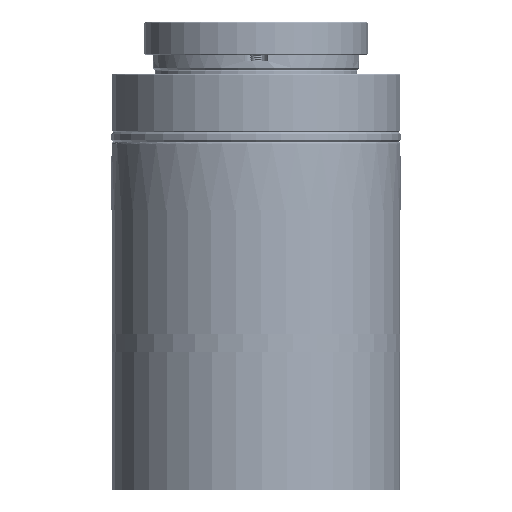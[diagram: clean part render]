
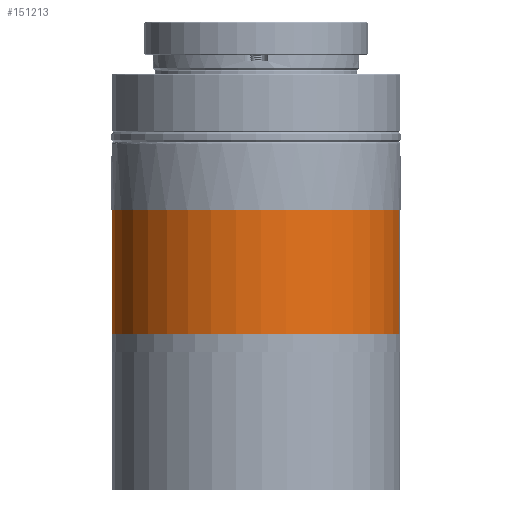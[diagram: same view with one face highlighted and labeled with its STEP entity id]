
A CAD part, front view. The second image highlights one B-rep face of the part: STEP entity #151213.
In plain terms, the highlighted cylindrical face has radius 35 mm (diameter 70 mm), a partial arc.
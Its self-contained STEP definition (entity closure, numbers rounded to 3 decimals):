
#3850 = AXIS2_PLACEMENT_3D ( 'NONE', #306147, #401969, #301951 ) ;
#25068 = VERTEX_POINT ( 'NONE', #172447 ) ;
#56591 = CIRCLE ( 'NONE', #294385, 35. ) ;
#61663 = ORIENTED_EDGE ( 'NONE', *, *, #270817, .F. ) ;
#64071 = LINE ( 'NONE', #166086, #419076 ) ;
#70835 = CARTESIAN_POINT ( 'NONE',  ( -67.891, 27.247, -58.25 ) ) ;
#71102 = DIRECTION ( 'NONE',  ( 0., 0., -1. ) ) ;
#79496 = LINE ( 'NONE', #111434, #84032 ) ;
#84032 = VECTOR ( 'NONE', #71102, 1000. ) ;
#88188 = VERTEX_POINT ( 'NONE', #279193 ) ;
#89423 = CARTESIAN_POINT ( 'NONE',  ( -33.239, 22.326, -28.25 ) ) ;
#98894 = CIRCLE ( 'NONE', #3850, 35. ) ;
#101568 = VERTEX_POINT ( 'NONE', #269270 ) ;
#111434 = CARTESIAN_POINT ( 'NONE',  ( 1.413, 17.405, -28.25 ) ) ;
#116840 = CARTESIAN_POINT ( 'NONE',  ( -33.239, 22.326, -58.25 ) ) ;
#136274 = DIRECTION ( 'NONE',  ( 0., 0., -1. ) ) ;
#139304 = DIRECTION ( 'NONE',  ( 0.99, -0.141, 0. ) ) ;
#146937 = FACE_OUTER_BOUND ( 'NONE', #320524, .T. ) ;
#151213 = ADVANCED_FACE ( 'NONE', ( #146937 ), #314958, .T. ) ;
#160087 = EDGE_CURVE ( 'NONE', #25068, #101568, #98894, .T. ) ;
#166086 = CARTESIAN_POINT ( 'NONE',  ( -67.891, 27.247, -28.25 ) ) ;
#172447 = CARTESIAN_POINT ( 'NONE',  ( -67.891, 27.247, -28.25 ) ) ;
#185147 = DIRECTION ( 'NONE',  ( 0., 0., -1. ) ) ;
#193705 = ORIENTED_EDGE ( 'NONE', *, *, #160087, .F. ) ;
#233013 = DIRECTION ( 'NONE',  ( 0., 0., 1. ) ) ;
#245972 = AXIS2_PLACEMENT_3D ( 'NONE', #89423, #185147, #253266 ) ;
#253266 = DIRECTION ( 'NONE',  ( -0.99, 0.141, 0. ) ) ;
#257707 = EDGE_CURVE ( 'NONE', #25068, #301171, #64071, .T. ) ;
#269270 = CARTESIAN_POINT ( 'NONE',  ( 1.413, 17.405, -28.25 ) ) ;
#270817 = EDGE_CURVE ( 'NONE', #101568, #88188, #79496, .T. ) ;
#279193 = CARTESIAN_POINT ( 'NONE',  ( 1.413, 17.405, -58.25 ) ) ;
#294385 = AXIS2_PLACEMENT_3D ( 'NONE', #116840, #233013, #139304 ) ;
#301171 = VERTEX_POINT ( 'NONE', #70835 ) ;
#301951 = DIRECTION ( 'NONE',  ( 0.99, -0.141, 0. ) ) ;
#306147 = CARTESIAN_POINT ( 'NONE',  ( -33.239, 22.326, -28.25 ) ) ;
#312063 = ORIENTED_EDGE ( 'NONE', *, *, #338875, .T. ) ;
#314958 = CYLINDRICAL_SURFACE ( 'NONE', #245972, 35. ) ;
#320524 = EDGE_LOOP ( 'NONE', ( #61663, #193705, #416893, #312063 ) ) ;
#338875 = EDGE_CURVE ( 'NONE', #301171, #88188, #56591, .T. ) ;
#401969 = DIRECTION ( 'NONE',  ( 0., 0., 1. ) ) ;
#416893 = ORIENTED_EDGE ( 'NONE', *, *, #257707, .T. ) ;
#419076 = VECTOR ( 'NONE', #136274, 1000. ) ;
